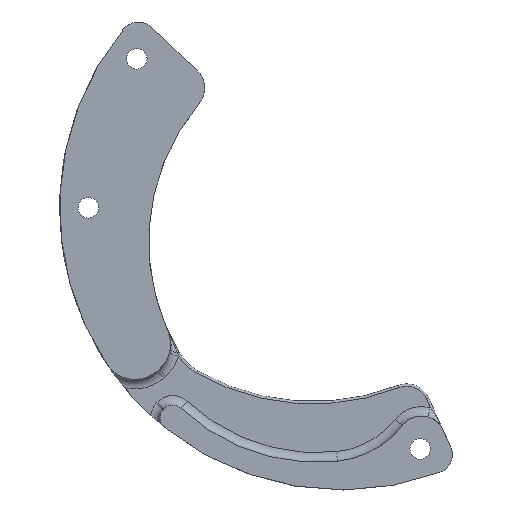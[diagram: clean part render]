
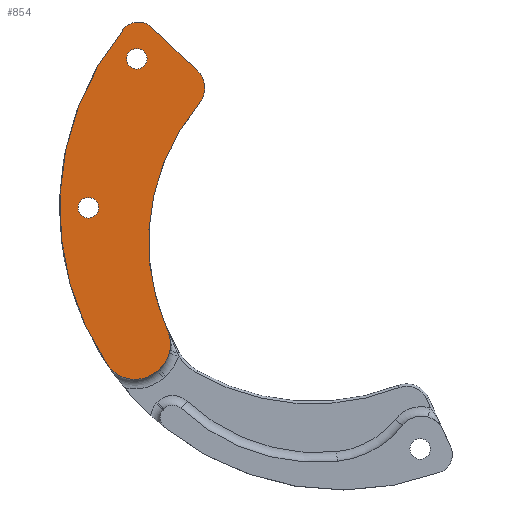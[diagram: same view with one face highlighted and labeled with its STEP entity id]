
A CAD part, left-side view. The second image highlights one B-rep face of the part: STEP entity #854.
In plain terms, the highlighted planar face has unit normal (-1, 0, 0).
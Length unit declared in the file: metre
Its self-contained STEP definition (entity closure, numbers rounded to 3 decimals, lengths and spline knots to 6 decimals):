
#76=CIRCLE('',#938,0.00215);
#77=CIRCLE('',#939,0.00215);
#78=CIRCLE('',#940,0.004);
#79=CIRCLE('',#941,0.059);
#80=CIRCLE('',#942,0.007);
#81=CIRCLE('',#943,0.007);
#82=CIRCLE('',#944,0.045);
#83=CIRCLE('',#945,0.005);
#155=ORIENTED_EDGE('',*,*,#411,.F.);
#156=ORIENTED_EDGE('',*,*,#412,.F.);
#157=ORIENTED_EDGE('',*,*,#413,.T.);
#158=ORIENTED_EDGE('',*,*,#414,.T.);
#159=ORIENTED_EDGE('',*,*,#415,.T.);
#160=ORIENTED_EDGE('',*,*,#416,.T.);
#161=ORIENTED_EDGE('',*,*,#417,.T.);
#162=ORIENTED_EDGE('',*,*,#418,.T.);
#163=ORIENTED_EDGE('',*,*,#419,.F.);
#164=ORIENTED_EDGE('',*,*,#420,.T.);
#411=EDGE_CURVE('',#539,#539,#76,.F.);
#412=EDGE_CURVE('',#540,#540,#77,.F.);
#413=EDGE_CURVE('',#541,#542,#609,.T.);
#414=EDGE_CURVE('',#542,#543,#78,.F.);
#415=EDGE_CURVE('',#543,#544,#79,.F.);
#416=EDGE_CURVE('',#544,#545,#80,.F.);
#417=EDGE_CURVE('',#545,#546,#610,.T.);
#418=EDGE_CURVE('',#546,#547,#81,.F.);
#419=EDGE_CURVE('',#548,#547,#82,.T.);
#420=EDGE_CURVE('',#548,#541,#83,.F.);
#539=VERTEX_POINT('',#1392);
#540=VERTEX_POINT('',#1394);
#541=VERTEX_POINT('',#1396);
#542=VERTEX_POINT('',#1397);
#543=VERTEX_POINT('',#1399);
#544=VERTEX_POINT('',#1401);
#545=VERTEX_POINT('',#1403);
#546=VERTEX_POINT('',#1405);
#547=VERTEX_POINT('',#1407);
#548=VERTEX_POINT('',#1409);
#609=LINE('',#1395,#654);
#610=LINE('',#1404,#655);
#654=VECTOR('',#1092,1.);
#655=VECTOR('',#1099,1.);
#699=EDGE_LOOP('',(#155));
#700=EDGE_LOOP('',(#156));
#701=EDGE_LOOP('',(#157,#158,#159,#160,#161,#162,#163,#164));
#771=FACE_BOUND('',#699,.T.);
#772=FACE_BOUND('',#700,.T.);
#773=FACE_BOUND('',#701,.T.);
#839=PLANE('',#937);
#854=ADVANCED_FACE('',(#771,#772,#773),#839,.F.);
#937=AXIS2_PLACEMENT_3D('',#1390,#1086,#1087);
#938=AXIS2_PLACEMENT_3D('',#1391,#1088,#1089);
#939=AXIS2_PLACEMENT_3D('',#1393,#1090,#1091);
#940=AXIS2_PLACEMENT_3D('',#1398,#1093,#1094);
#941=AXIS2_PLACEMENT_3D('',#1400,#1095,#1096);
#942=AXIS2_PLACEMENT_3D('',#1402,#1097,#1098);
#943=AXIS2_PLACEMENT_3D('',#1406,#1100,#1101);
#944=AXIS2_PLACEMENT_3D('',#1408,#1102,#1103);
#945=AXIS2_PLACEMENT_3D('',#1410,#1104,#1105);
#1086=DIRECTION('',(1.,0.,0.));
#1087=DIRECTION('',(0.,1.,0.));
#1088=DIRECTION('',(1.,0.,0.));
#1089=DIRECTION('',(0.,0.,-1.));
#1090=DIRECTION('',(1.,0.,0.));
#1091=DIRECTION('',(0.,0.,-1.));
#1092=DIRECTION('',(0.,0.725,0.688));
#1093=DIRECTION('',(1.,0.,0.));
#1094=DIRECTION('',(0.,0.,-1.));
#1095=DIRECTION('',(1.,0.,0.));
#1096=DIRECTION('',(0.,0.,-1.));
#1097=DIRECTION('',(1.,0.,0.));
#1098=DIRECTION('',(0.,0.,-1.));
#1099=DIRECTION('',(0.,-0.749,0.662));
#1100=DIRECTION('',(1.,0.,0.));
#1101=DIRECTION('',(0.,0.,-1.));
#1102=DIRECTION('',(-1.,0.,0.));
#1103=DIRECTION('',(0.,0.,1.));
#1104=DIRECTION('',(1.,0.,0.));
#1105=DIRECTION('',(0.,0.,-1.));
#1390=CARTESIAN_POINT('',(0.0545,0.,-0.064));
#1391=CARTESIAN_POINT('',(0.0545,0.053,-0.064));
#1392=CARTESIAN_POINT('',(0.0545,0.053,-0.06615));
#1393=CARTESIAN_POINT('',(0.0545,0.042878,-0.032847));
#1394=CARTESIAN_POINT('',(0.0545,0.042878,-0.034997));
#1395=CARTESIAN_POINT('',(0.0545,0.040621,-0.025452));
#1396=CARTESIAN_POINT('',(0.0545,0.03021,-0.035332));
#1397=CARTESIAN_POINT('',(0.0545,0.03979,-0.026241));
#1398=CARTESIAN_POINT('',(0.0545,0.042543,-0.029142));
#1399=CARTESIAN_POINT('',(0.0545,0.045637,-0.026607));
#1400=CARTESIAN_POINT('',(0.0545,0.,-0.064));
#1401=CARTESIAN_POINT('',(0.0545,0.049063,-0.096769));
#1402=CARTESIAN_POINT('',(0.0545,0.043242,-0.092881));
#1403=CARTESIAN_POINT('',(0.0545,0.038606,-0.098126));
#1404=CARTESIAN_POINT('',(0.0545,0.032405,-0.092644));
#1405=CARTESIAN_POINT('',(0.0545,0.038179,-0.097749));
#1406=CARTESIAN_POINT('',(0.0545,0.042815,-0.092504));
#1407=CARTESIAN_POINT('',(0.0545,0.036432,-0.089631));
#1408=CARTESIAN_POINT('',(0.0545,-0.004601,-0.071157));
#1409=CARTESIAN_POINT('',(0.0545,0.029827,-0.042178));
#1410=CARTESIAN_POINT('',(0.0545,0.033652,-0.038958));
